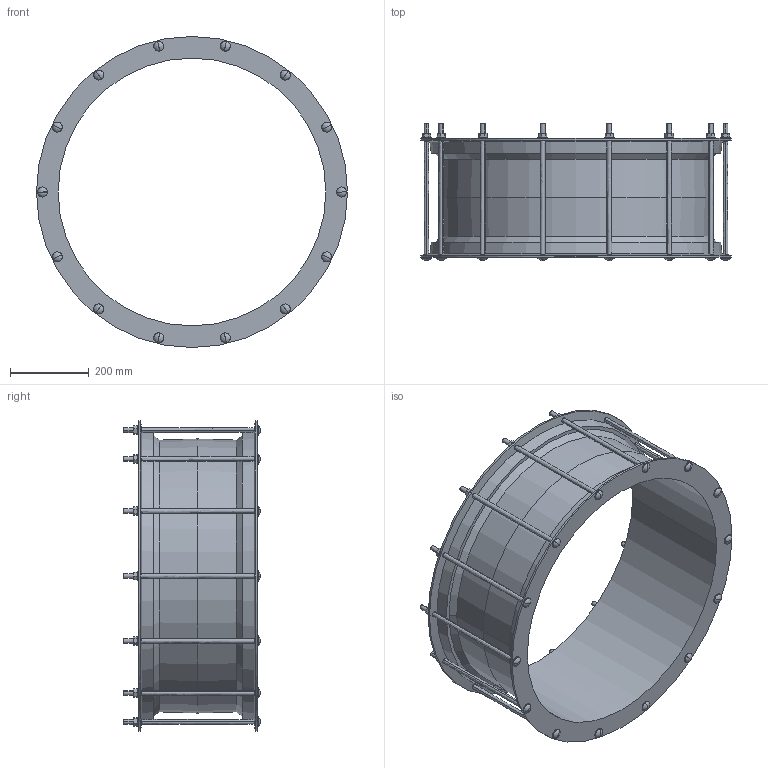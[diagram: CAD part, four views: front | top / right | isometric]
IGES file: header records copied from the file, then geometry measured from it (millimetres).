
Start section:  PTC IGES file: 662_679.igs
Global section: file name: 662_679.igs; native system: Creo Parametric by PTC Inc.; preprocessor: 2016130; author: mfairey; organization: Unknown; date: 20181218.153849; units: millimetre
Bounding box: 791 x 348 x 791 mm (x, y, z)
Surface area: 1918556.5 mm2 (no closed solid volume)
Topology: 0 solids, 0 shells, 292 faces, 1388 edges, 1360 vertices
Faces by surface type: revolution 162, bspline 130
